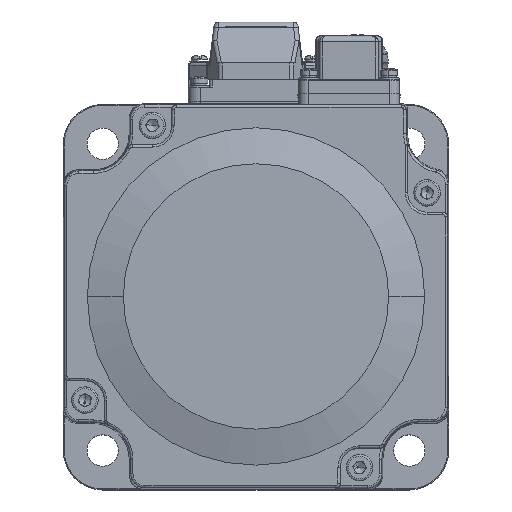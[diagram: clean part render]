
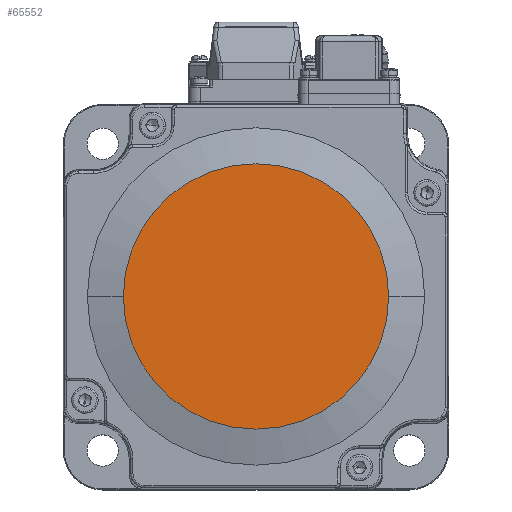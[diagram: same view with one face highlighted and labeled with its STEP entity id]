
A CAD part, top view. The second image highlights one B-rep face of the part: STEP entity #65552.
In plain terms, the highlighted planar face has unit normal (0, 0, 1).
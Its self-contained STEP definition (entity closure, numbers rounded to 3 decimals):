
#1934 = CIRCLE ( 'NONE', #4304, 27.536 ) ;
#2654 = EDGE_CURVE ( 'NONE', #19457, #9250, #66797, .T. ) ;
#3614 = AXIS2_PLACEMENT_3D ( 'NONE', #69872, #37506, #42919 ) ;
#4304 = AXIS2_PLACEMENT_3D ( 'NONE', #39899, #62090, #34459 ) ;
#9250 = VERTEX_POINT ( 'NONE', #10568 ) ;
#9379 = DIRECTION ( 'NONE',  ( 0., 0., 1. ) ) ;
#10568 = CARTESIAN_POINT ( 'NONE',  ( 12.464, -213.963, 95.7 ) ) ;
#19457 = VERTEX_POINT ( 'NONE', #54842 ) ;
#23821 = FACE_OUTER_BOUND ( 'NONE', #67724, .T. ) ;
#26031 = ORIENTED_EDGE ( 'NONE', *, *, #47051, .T. ) ;
#26266 = AXIS2_PLACEMENT_3D ( 'NONE', #46704, #9379, #53630 ) ;
#34459 = DIRECTION ( 'NONE',  ( 1., 0., 0. ) ) ;
#37506 = DIRECTION ( 'NONE',  ( 0., 0., 1. ) ) ;
#39425 = ORIENTED_EDGE ( 'NONE', *, *, #2654, .T. ) ;
#39899 = CARTESIAN_POINT ( 'NONE',  ( 40., -213.963, 95.7 ) ) ;
#42919 = DIRECTION ( 'NONE',  ( 1., 0., 0. ) ) ;
#46704 = CARTESIAN_POINT ( 'NONE',  ( 40., -213.963, 95.7 ) ) ;
#47051 = EDGE_CURVE ( 'NONE', #9250, #19457, #1934, .T. ) ;
#53630 = DIRECTION ( 'NONE',  ( 1., 0., 0. ) ) ;
#54842 = CARTESIAN_POINT ( 'NONE',  ( 67.536, -213.963, 95.7 ) ) ;
#62090 = DIRECTION ( 'NONE',  ( 0., 0., 1. ) ) ;
#65552 = ADVANCED_FACE ( 'NONE', ( #23821 ), #69177, .T. ) ;
#66797 = CIRCLE ( 'NONE', #26266, 27.536 ) ;
#67724 = EDGE_LOOP ( 'NONE', ( #39425, #26031 ) ) ;
#69177 = PLANE ( 'NONE',  #3614 ) ;
#69872 = CARTESIAN_POINT ( 'NONE',  ( 40., -213.963, 95.7 ) ) ;
